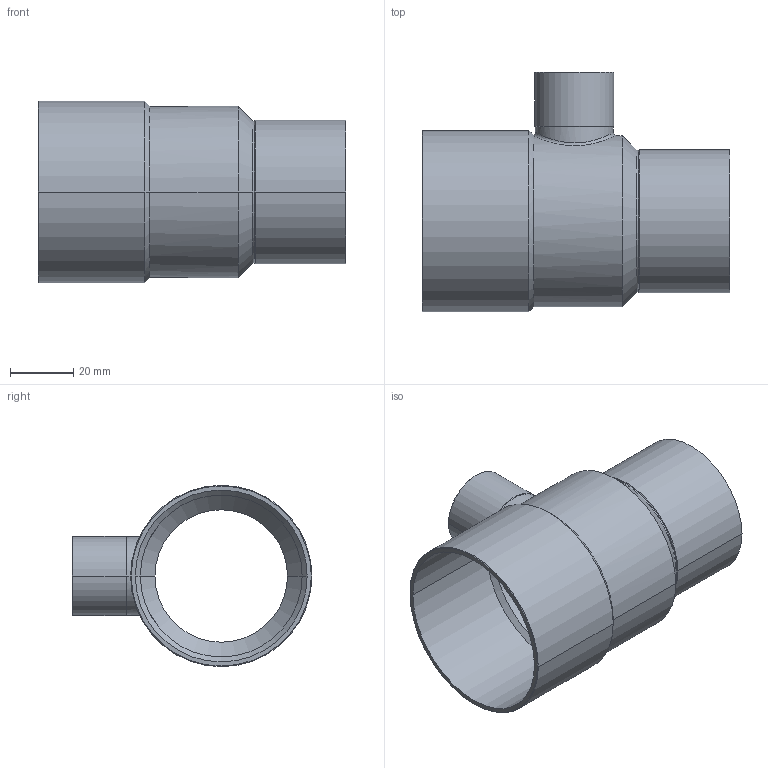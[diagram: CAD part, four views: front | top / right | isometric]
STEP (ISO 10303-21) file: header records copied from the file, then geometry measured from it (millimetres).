
FILE_DESCRIPTION((''),'2;1');
FILE_NAME('G:\Technics\CAD\Bauteile\15130\15130542242.stp','2005-11-03T13:43:14',('boden'),(''),'Autodesk Inventor 8','Autodesk Inventor 8','');
FILE_SCHEMA(('AUTOMOTIVE_DESIGN { 1 0 10303 214 1 1 1 1 }'));
Length unit declared in the file: millimetre
Products named in the file (1): 15130542242
Bounding box: 97 x 75.58 x 57.15 mm (x, y, z)
Volume: 25423.2 mm3; surface area: 34610.2 mm2
Topology: 1 solids, 1 shells, 50 faces, 109 edges, 60 vertices
Faces by surface type: cylinder 24, cone 22, plane 3, bspline 1
Entity records: 1561 total; most frequent: CARTESIAN_POINT 434, DIRECTION 249, ORIENTED_EDGE 218, EDGE_CURVE 109, AXIS2_PLACEMENT_3D 101, VERTEX_POINT 60, EDGE_LOOP 53, CIRCLE 51
